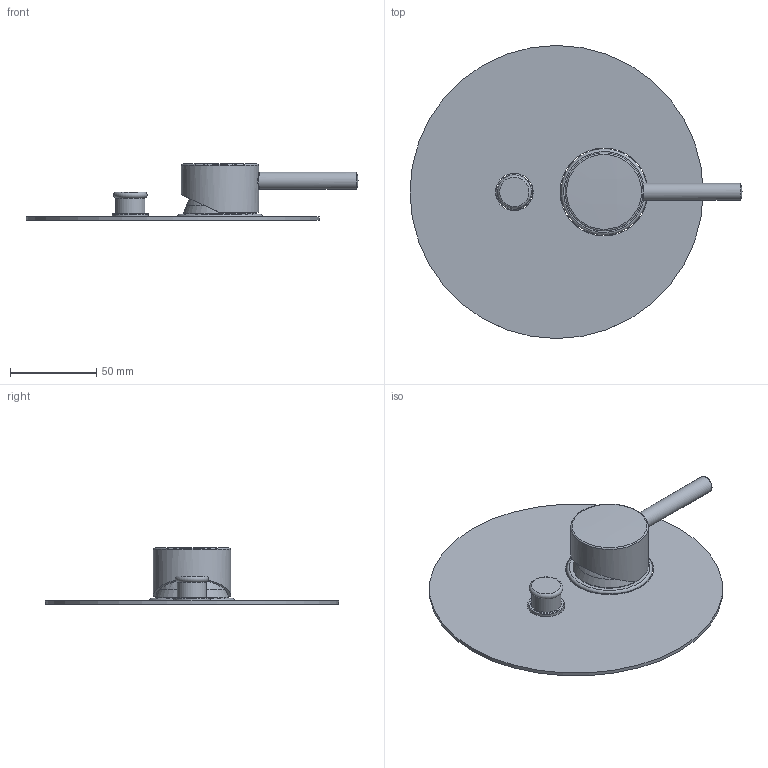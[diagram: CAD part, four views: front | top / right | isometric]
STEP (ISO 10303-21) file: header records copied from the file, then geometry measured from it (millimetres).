
FILE_DESCRIPTION (( 'STEP AP203' ), '1' );
FILE_NAME ('12117510 3D X CLIENTI.STEP', '2022-02-11T12:32:14', ( '' ), ( '' ), 'SwSTEP 2.0', 'SolidWorks 2020', '' );
FILE_SCHEMA (( 'CONFIG_CONTROL_DESIGN' ));
Length unit declared in the file: millimetre
Products named in the file (23): 12117510 3D X CLIENTI; B1607102       ; F1901699       ; F4100199; B3803802       ; F2910010; B1800110       ; B1600310       ; S2902099       ; B3335202       ; B3335302       ; S1611010       ; F2621990       ; F2623499       ; F3512310       ; F2303310; F1901599       ; F2619490       ; F2607590       ; B1800202       ; B2902202       ; B1817802       
Assembly tree (10 placements, depth 3):
  12117510 3D X CLIENTI
    B1600310       
    F4100199
    B1800202       
    B1800110       
    F2303310
    F3512310       
    S1611010       
      S2902099       
      B1817802       
      F2910010
  B1607102       
  F1901699       
  B3803802       
  B3335202       
Bounding box: 192.5 x 170 x 32.9 mm (x, y, z)
Volume: 72066 mm3; surface area: 70055.6 mm2
Topology: 9 solids, 10 shells, 198 faces, 460 edges, 292 vertices
Faces by surface type: plane 78, cylinder 76, cone 20, bspline 18, torus 4, sphere 2
Full cylindrical faces by diameter (mm): 2.459 x1, 3.5 x1, 3.9 x1, 4.2 x1, 9.9 x1, 15 x1, 17 x1, 17.917 x1, 21 x1, 21.8 x1, 25.7 x1, 26 x1, 30 x1, 33 x1, 34 x1, 35 x1, 37.8 x1, 41 x1, 41.9 x1, 42 x1, 42.4 x1, 45 x1, 49.8 x1, 51 x1, 170 x1
Entity records: 8197 total; most frequent: CARTESIAN_POINT 2045, DIRECTION 866, ORIENTED_EDGE 776, EDGE_CURVE 388, AXIS2_PLACEMENT_3D 348, VERTEX_POINT 270, EDGE_LOOP 270, FACE_OUTER_BOUND 232
